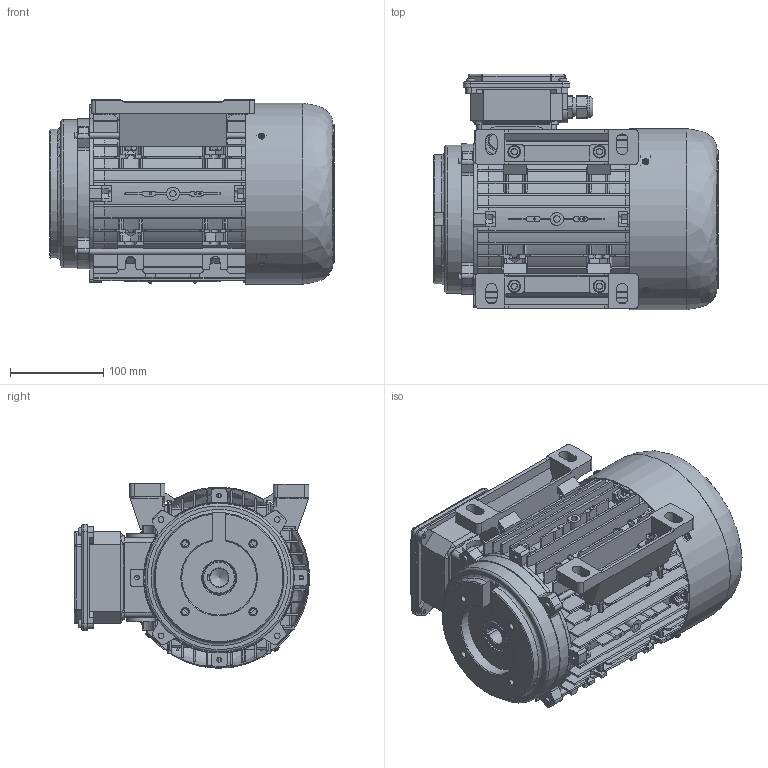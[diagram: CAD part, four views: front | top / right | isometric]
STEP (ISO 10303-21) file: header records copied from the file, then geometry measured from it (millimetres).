
FILE_DESCRIPTION(/* description */ ('Unknown'),/* implementation_level */ '2;1');
FILE_NAME(/* name */ 'W:\Tecnico\Archivio\Dimensioni Pompe\3D Export\Motori\MRE100-05DX.stp',/* time_stamp */ '2021-04-07T12:26:07+02:00',/* author */ ('marcop'),/* organization */ ('Unknown'),/* preprocessor_version */ 'ST-DEVELOPER v17',/* originating_system */ 'Autodesk Inventor 2018',/* authorisation */ ' ');
FILE_SCHEMA (('AUTOMOTIVE_DESIGN { 1 0 10303 214 3 1 1 }'));
Products named in the file (1): 1182 M100 ATT.80-(ME100 05 DX)
Bounding box: 305 x 251.99 x 197.59 mm (x, y, z)
Volume: 2356119.8 mm3; surface area: 1013868.6 mm2
Topology: 1 solids, 32 shells, 3516 faces, 10038 edges, 6723 vertices
Faces by surface type: plane 2180, cylinder 967, cone 209, torus 92, bspline 60, sphere 8
Full cylindrical faces by diameter (mm): 2.3 x11, 2.5 x2, 3 x2, 3.1 x1, 3.2 x4, 3.242 x2, 3.5 x4, 3.748 x2, 3.808 x2, 4.134 x8, 4.917 x8, 5 x8, 5.5 x12, 6 x20, 6.6 x4, 6.647 x4, 6.8 x4, 7 x3, 7.5 x4, 8 x8, 9 x4, 12.8 x4, 14 x1, 15 x1, 17 x1, 18 x2, 18.5 x1, 20 x3, 23 x3, 28 x2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
Entity records: 123960 total; most frequent: CARTESIAN_POINT 26820, ORIENTED_EDGE 20034, DIRECTION 19291, EDGE_CURVE 10017, VERTEX_POINT 6723, AXIS2_PLACEMENT_3D 6505, LINE 6281, VECTOR 6281
